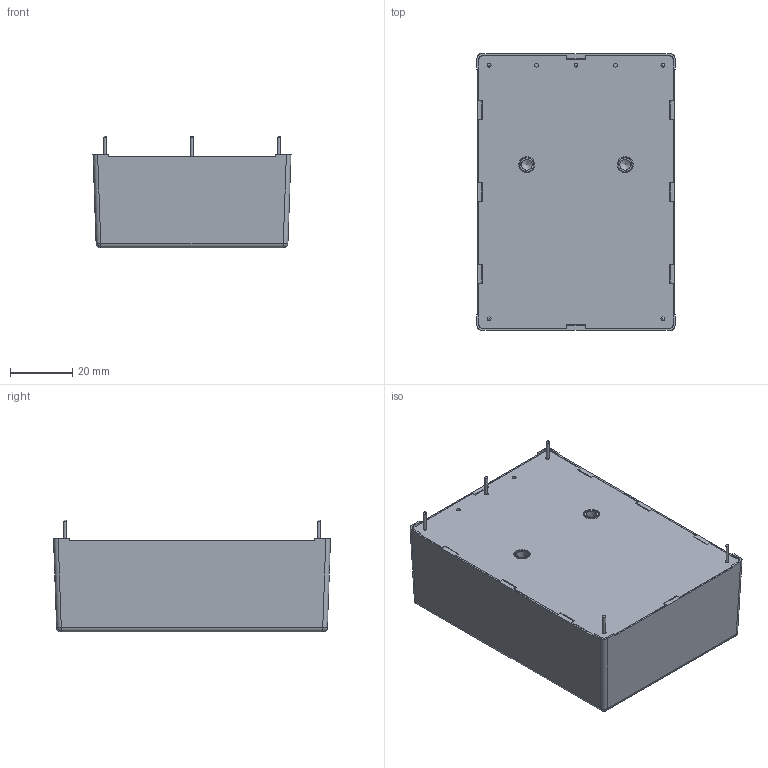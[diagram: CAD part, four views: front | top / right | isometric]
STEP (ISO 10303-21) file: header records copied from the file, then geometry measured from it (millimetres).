
FILE_DESCRIPTION(/* description */ (''),/* implementation_level */ '2;1');
FILE_NAME(/* name */ 'C:\Users\CALLIOPE\Documents\Inventor\AC TO DC\AQF-30\3D\X2\5C3A5BF8591689C0\X0\\型錄用-STEP檔\APM-40 PCB Mounting.stp',/* time_stamp */ '2015-03-13T08:15:35+08:00',/* author */ ('CALLIOPE'),/* organization */ (''),/* preprocessor_version */ 'ST-DEVELOPER v15.6',/* originating_system */ 'Autodesk Inventor 2015',/* authorisation */ '');
FILE_SCHEMA (('AUTOMOTIVE_DESIGN { 1 0 10303 214 3 1 1 }'));
Length unit declared in the file: millimetre
Products named in the file (3): APM-40 PCB CASE; APM-40 PCB BASE; APM-40 PCB Mounting
Assembly tree (2 placements, depth 2):
  APM-40 PCB Mounting
    APM-40 PCB CASE
    APM-40 PCB BASE
Bounding box: 63.7 x 89.1 x 36 mm (x, y, z)
Volume: 161031.4 mm3; surface area: 32171.5 mm2
Topology: 2 solids, 2 shells, 425 faces, 1182 edges, 779 vertices
Faces by surface type: plane 335, cylinder 51, bspline 21, sphere 9, cone 9
Full cylindrical faces by diameter (mm): 1 x5, 1.2 x7, 3.459 x2, 4.4 x2, 5.2 x2, 7 x4
Entity records: 13262 total; most frequent: CARTESIAN_POINT 2576, ORIENTED_EDGE 2256, DIRECTION 2013, EDGE_CURVE 1128, LINE 977, VECTOR 977, VERTEX_POINT 765, AXIS2_PLACEMENT_3D 518
